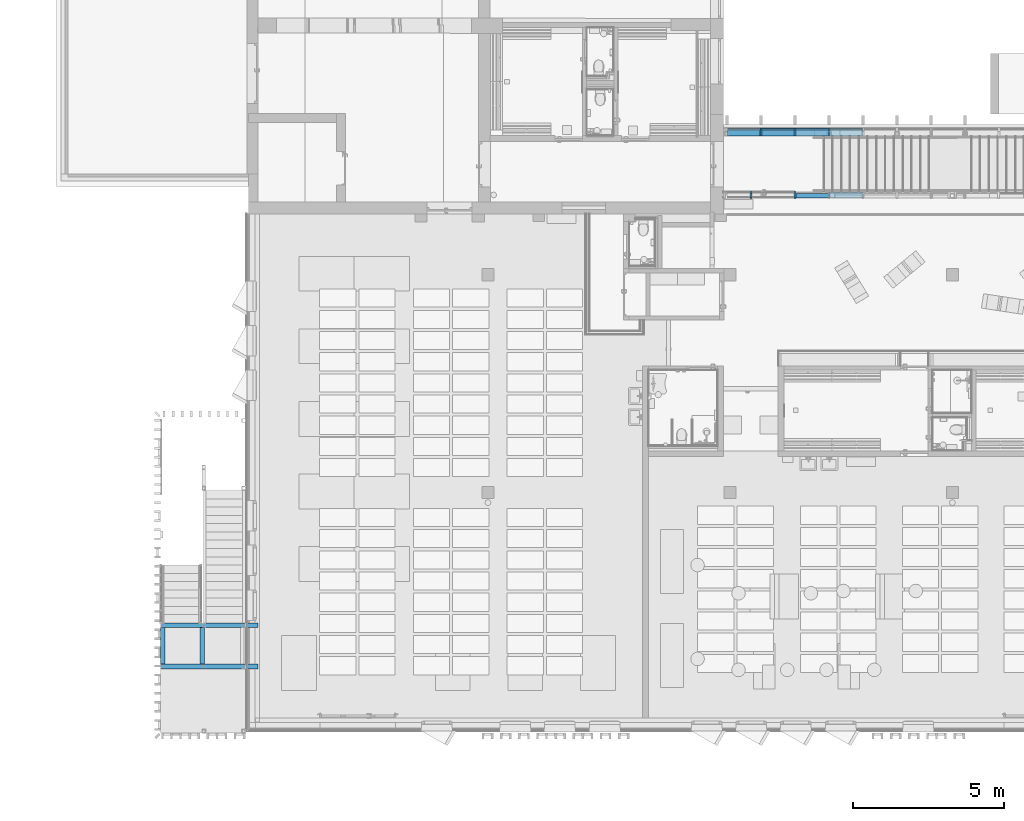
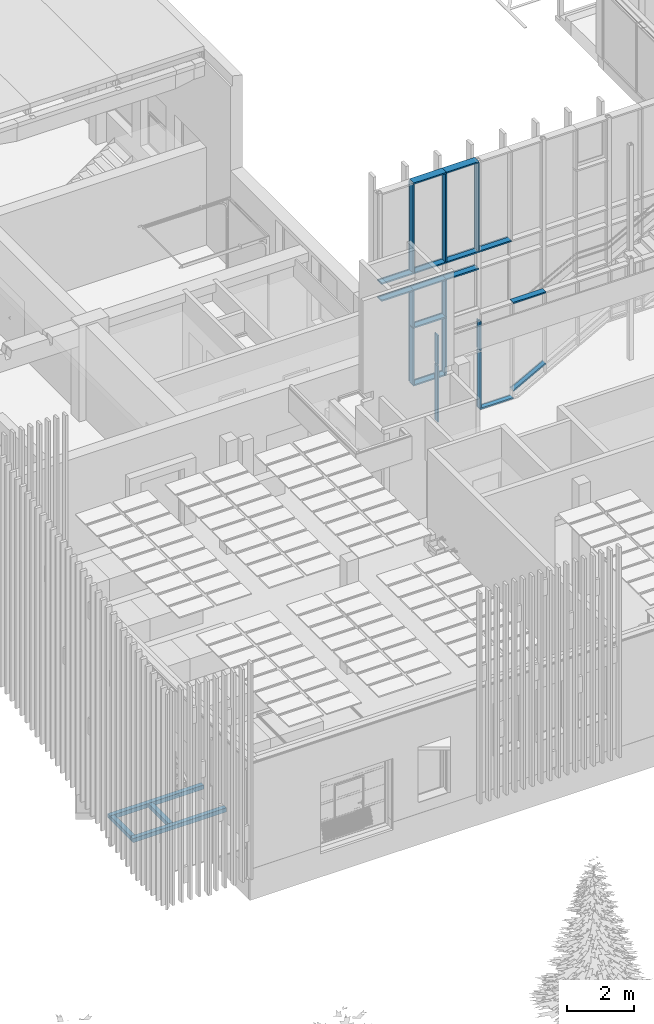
# One storey, part 2 of 301: 25 members, 4 beams, 2 elements without a shape of their own.
"""IFC2X3 building model written with IfcOpenShell, lengths in millimetres."""

from ifc_helpers import new_model, entity, si_unit, converted_unit, derived_unit, money_unit, direction, frame, origin_with_axes, place, context, subcontext, project, spatial, faceted_brep, source, transform, mapped, material, type_object, element, aggregate, save


model = new_model("IFC2X3")

# Units and contexts
model_context = context("Model", 3, precision=0.01, world=origin_with_axes(), true_north=direction((0.0, 1.0)))
body_context = subcontext(model_context, "Body", "Model", "MODEL_VIEW")
ifc_project = project(units=[si_unit("LENGTHUNIT", "METRE", prefix="MILLI"), si_unit("AREAUNIT", "SQUARE_METRE"), si_unit("VOLUMEUNIT", "CUBIC_METRE"), converted_unit("PLANEANGLEUNIT", "DEGREE", entity("IfcPlaneAngleMeasure", 0.0174532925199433), si_unit("PLANEANGLEUNIT", "RADIAN"), dimensions=[0, 0, 0, 0, 0, 0, 0]), money_unit("EUR"), converted_unit("TIMEUNIT", "Year", entity("IfcTimeMeasure", 31557600.0), si_unit("TIMEUNIT", "SECOND"), dimensions=[0, 0, 1, 0, 0, 0, 0]), si_unit("MASSUNIT", "GRAM", prefix="KILO"), si_unit("THERMODYNAMICTEMPERATUREUNIT", "DEGREE_CELSIUS"), si_unit("LUMINOUSINTENSITYUNIT", "LUMEN"), si_unit("ENERGYUNIT", "JOULE", prefix="MEGA"), derived_unit("THERMALCONDUCTANCEUNIT", [(si_unit("POWERUNIT", "WATT"), 1), (si_unit("LENGTHUNIT", "METRE"), -1), (si_unit("THERMODYNAMICTEMPERATUREUNIT", "KELVIN"), -1)]), derived_unit("SPECIFICHEATCAPACITYUNIT", [(si_unit("ENERGYUNIT", "JOULE"), 1), (si_unit("MASSUNIT", "GRAM", prefix="KILO"), -1), (si_unit("THERMODYNAMICTEMPERATUREUNIT", "KELVIN"), -1)]), derived_unit("MASSDENSITYUNIT", [(si_unit("MASSUNIT", "GRAM", prefix="KILO"), 1), (si_unit("VOLUMEUNIT", "CUBIC_METRE"), -1)])], contexts=[model_context])

# Site, building, storey
site_placement = place(None, frame((0.0, 0.0, 8650.0), z_axis=(0.0, 0.0, 1.0), x_axis=(1.0, 0.0, 0.0)))
site = spatial("IfcSite", under=ifc_project, at=site_placement, Name="43301:001:0844", CompositionType="ELEMENT")
building_placement = place(site_placement, origin_with_axes())
building = spatial("IfcBuilding", under=site, at=building_placement, Name="Kuressaare Ametikooli tuulikute mehaanikute õppekorpus", CompositionType="ELEMENT")
storey_placement = place(building_placement, origin_with_axes())
storey = spatial("IfcBuildingStorey", under=building, at=storey_placement, Name="1.korrus", CompositionType="ELEMENT", Elevation=0.0)

# Curtain wall, members
curtain_wall_type = type_object("IfcCurtainWallType", Name="Curtain Wall Type", PredefinedType="NOTDEFINED")
curtain_wall_1_placement = place(storey_placement, frame((116704.6026822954, 28579.57374875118, 35.00000000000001), z_axis=(0.0, 0.0, 1.0), x_axis=(1.0, 0.0, 0.0)))
curtain_wall_1 = element("IfcCurtainWall", 1, at=curtain_wall_1_placement, inside=storey, type_object=curtain_wall_type, Name="KF-1.1")
ifc_material_1 = material(Name="Aluminium")
member_type_1 = type_object("IfcMemberType", Name="Mullion Frame 50 x 260", PredefinedType="NOTDEFINED")
shared_shape_1 = source(origin_with_axes(), body_context, "Body", "Brep", [
    faceted_brep([(5.000000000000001, -20.0, 2074.999959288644), (5.000000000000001, 20.0, 2074.999959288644), (25.0, 19.99999999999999, 2074.999959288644), (25.0, 40.00000000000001, 2074.999959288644), (-25.0, 40.00000000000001, 2074.999959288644), (-25.0, 20.0, 2074.999959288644), (-5.000000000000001, 20.0, 2074.999959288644), (-5.000000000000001, -20.0, 2074.999959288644), (-25.0, -20.0, 2074.999959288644), (-25.0, -220.0, 2074.999959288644), (25.0, -220.0, 2074.999959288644), (25.0, -19.99999999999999, 2074.999959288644), (5.000000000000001, -20.0, 25.00000000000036), (5.000000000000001, 20.0, 25.00000000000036), (25.0, 20.0, 24.99999999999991), (25.0, 40.00000000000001, 24.99999999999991), (-25.0, 40.00000000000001, 24.99999999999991), (-25.0, 19.99999999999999, 24.99999999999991), (-5.000000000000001, 20.0, 25.00000000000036), (-5.000000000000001, -20.0, 25.00000000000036), (-25.0, -19.99999999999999, 24.99999999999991), (-25.0, -220.0, 25.00000000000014), (25.0, -220.0, 25.00000000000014), (25.0, -20.0, 24.99999999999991)], [[[0, 1, 2, 3, 4, 5, 6, 7, 8, 9, 10, 11]], [[0, 12, 13, 1]], [[1, 13, 14, 2]], [[14, 15, 3, 2]], [[4, 3, 15, 16]], [[17, 5, 4, 16]], [[5, 17, 18, 6]], [[7, 6, 18, 19]], [[8, 7, 19, 20]], [[8, 20, 21, 9]], [[10, 9, 21, 22]], [[11, 10, 22, 23]], [[11, 23, 12, 0]], [[13, 12, 23, 22, 21, 20, 19, 18, 17, 16, 15, 14]]]),
])
member_1_placement = place(curtain_wall_1_placement, frame((-11812.5, 0.0, 0.0), z_axis=(0.0, 0.0, 1.0), x_axis=(-1.0, 0.0, 0.0)))
member_1 = element("IfcMember", 2, at=member_1_placement, type_object=member_type_1, material=ifc_material_1, context=body_context, shape_type="MappedRepresentation", body=[
    mapped(shared_shape_1, transform((0.0, 0.0, 0.0), x_axis=(-1.0, 0.0, 0.0), y_axis=(0.0, -1.0, 0.0), z_axis=(0.0, 0.0, 1.0))),
])
member_2_placement = place(curtain_wall_1_placement, frame((-10687.5, 0.0, 0.0), z_axis=(0.0, 0.0, 1.0), x_axis=(-1.0, 0.0, 0.0)))
member_2 = element("IfcMember", 3, at=member_2_placement, type_object=member_type_1, material=ifc_material_1, context=body_context, shape_type="MappedRepresentation", body=[
    mapped(shared_shape_1, transform((0.0, 0.0, 0.0), x_axis=(-1.0, 0.0, 0.0), y_axis=(0.0, -1.0, 0.0), z_axis=(0.0, 0.0, 1.0))),
])
member_type_2 = type_object("IfcMemberType", Name="Boundary Frame 50 x 260", PredefinedType="NOTDEFINED")
shared_shape_2 = source(origin_with_axes(), body_context, "Body", "Brep", [
    faceted_brep([(5.000000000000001, -20.0, 1150.000000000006), (5.000000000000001, 20.0, 1150.000000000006), (25.0, 20.0, 1150.000000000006), (25.0, 40.00000000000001, 1150.000000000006), (-25.0, 40.00000000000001, 1150.000000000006), (-25.0, 19.99999999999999, 1150.000000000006), (-5.000000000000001, 20.0, 1150.000000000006), (-5.000000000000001, -20.0, 1150.000000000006), (-25.0, -19.99999999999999, 1150.000000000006), (-25.0, -220.0, 1150.000000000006), (25.0, -220.0, 1150.000000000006), (25.0, -20.0, 1150.000000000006), (5.000000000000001, -20.0, -25.00000000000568), (5.000000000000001, 20.0, -25.00000000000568), (25.0, 20.0, -25.00000000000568), (25.0, 40.00000000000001, -25.00000000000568), (-25.0, 40.00000000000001, -25.00000000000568), (-25.0, 19.99999999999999, -25.00000000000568), (-5.000000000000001, 20.0, -25.00000000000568), (-5.000000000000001, -20.0, -25.00000000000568), (-25.0, -19.99999999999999, -25.00000000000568), (-25.0, -220.0, -25.00000000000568), (25.0, -220.0, -25.00000000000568), (25.0, -20.0, -25.00000000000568)], [[[0, 1, 2, 3, 4, 5, 6, 7, 8, 9, 10, 11]], [[0, 12, 13, 1]], [[1, 13, 14, 2]], [[14, 15, 3, 2]], [[3, 15, 16, 4]], [[17, 5, 4, 16]], [[5, 17, 18, 6]], [[7, 6, 18, 19]], [[8, 7, 19, 20]], [[8, 20, 21, 9]], [[9, 21, 22, 10]], [[11, 10, 22, 23]], [[11, 23, 12, 0]], [[13, 12, 23, 22, 21, 20, 19, 18, 17, 16, 15, 14]]]),
])
member_3_placement = place(curtain_wall_1_placement, frame((-11812.5, 0.0, 2099.999959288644), z_axis=(1.0, 0.0, 0.0), x_axis=(0.0, 0.0, 1.0)))
member_3 = element("IfcMember", 4, at=member_3_placement, type_object=member_type_2, material=ifc_material_1, context=body_context, shape_type="MappedRepresentation", body=[
    mapped(shared_shape_2, transform((0.0, 0.0, 0.0), x_axis=(-1.0, 0.0, 0.0), y_axis=(0.0, -1.0, 0.0), z_axis=(0.0, 0.0, 1.0))),
])
shared_shape_3 = source(origin_with_axes(), body_context, "Body", "Brep", [
    faceted_brep([(5.000000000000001, -20.0, 1125.0), (5.000000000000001, 20.0, 1125.0), (25.0, 20.0, 1125.0), (25.0, 40.00000000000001, 1125.0), (-25.0, 40.00000000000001, 1125.0), (-25.0, 19.99999999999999, 1125.0), (-5.000000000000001, 20.0, 1125.0), (-5.000000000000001, -20.0, 1125.0), (-25.0, -19.99999999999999, 1125.0), (-25.0, -220.0, 1125.0), (25.0, -220.0, 1125.0), (25.0, -20.0, 1125.0), (5.000000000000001, -20.0, 0.0), (5.000000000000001, 20.0, 0.0), (25.0, 20.0, 0.0), (25.0, 40.00000000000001, 0.0), (-25.0, 40.00000000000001, 0.0), (-25.0, 19.99999999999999, 0.0), (-5.000000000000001, 20.0, 0.0), (-5.000000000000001, -20.0, 0.0), (-25.0, -19.99999999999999, 0.0), (-25.0, -220.0, 0.0), (25.0, -220.0, 0.0), (25.0, -20.0, 0.0)], [[[0, 1, 2, 3, 4, 5, 6, 7, 8, 9, 10, 11]], [[0, 12, 13, 1]], [[1, 13, 14, 2]], [[14, 15, 3, 2]], [[3, 15, 16, 4]], [[17, 5, 4, 16]], [[5, 17, 18, 6]], [[7, 6, 18, 19]], [[8, 7, 19, 20]], [[8, 20, 21, 9]], [[9, 21, 22, 10]], [[11, 10, 22, 23]], [[11, 23, 12, 0]], [[13, 12, 23, 22, 21, 20, 19, 18, 17, 16, 15, 14]]]),
])
member_4_placement = place(curtain_wall_1_placement, frame((-9562.5, 0.0, 4090.0), z_axis=(1.0, 0.0, 0.0), x_axis=(0.0, 0.0, 1.0)))
member_4 = element("IfcMember", 5, at=member_4_placement, type_object=member_type_2, material=ifc_material_1, context=body_context, shape_type="MappedRepresentation", body=[
    mapped(shared_shape_3, transform((0.0, 0.0, 0.0), x_axis=(-1.0, 0.0, 0.0), y_axis=(0.0, -1.0, 0.0), z_axis=(0.0, 0.0, 1.0))),
])
member_5_placement = place(curtain_wall_1_placement, frame((-10687.5, 0.0, 4090.0), z_axis=(1.0, 0.0, 0.0), x_axis=(0.0, 0.0, 1.0)))
member_5 = element("IfcMember", 6, at=member_5_placement, type_object=member_type_2, material=ifc_material_1, context=body_context, shape_type="MappedRepresentation", body=[
    mapped(shared_shape_3, transform((0.0, 0.0, 0.0), x_axis=(-1.0, 0.0, 0.0), y_axis=(0.0, -1.0, 0.0), z_axis=(0.0, 0.0, 1.0))),
])
member_6_placement = place(curtain_wall_1_placement, frame((-11812.5, 0.0, 4090.0), z_axis=(1.0, 0.0, 0.0), x_axis=(0.0, 0.0, 1.0)))
member_6 = element("IfcMember", 7, at=member_6_placement, type_object=member_type_2, material=ifc_material_1, context=body_context, shape_type="MappedRepresentation", body=[
    mapped(shared_shape_3, transform((0.0, 0.0, 0.0), x_axis=(-1.0, 0.0, 0.0), y_axis=(0.0, -1.0, 0.0), z_axis=(0.0, 0.0, 1.0))),
])
member_7_placement = place(curtain_wall_1_placement, frame((-11812.5, 0.0, 3470.000008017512), z_axis=(1.0, 0.0, 0.0), x_axis=(0.0, 0.0, 1.0)))
member_7 = element("IfcMember", 8, at=member_7_placement, type_object=member_type_2, material=ifc_material_1, context=body_context, shape_type="MappedRepresentation", body=[
    mapped(shared_shape_3, transform((0.0, 0.0, 0.0), x_axis=(-1.0, 0.0, 0.0), y_axis=(0.0, -1.0, 0.0), z_axis=(0.0, 0.0, 1.0))),
])
member_8_placement = place(curtain_wall_1_placement, frame((-10687.5, 0.0, 3470.000008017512), z_axis=(1.0, 0.0, 0.0), x_axis=(0.0, 0.0, 1.0)))
member_8 = element("IfcMember", 9, at=member_8_placement, type_object=member_type_2, material=ifc_material_1, context=body_context, shape_type="MappedRepresentation", body=[
    mapped(shared_shape_3, transform((0.0, 0.0, 0.0), x_axis=(-1.0, 0.0, 0.0), y_axis=(0.0, -1.0, 0.0), z_axis=(0.0, 0.0, 1.0))),
])
shared_shape_4 = source(origin_with_axes(), body_context, "Body", "Brep", [
    faceted_brep([(-5.000000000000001, -20.0, 1125.0), (-25.0, -19.99999999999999, 1125.0), (-25.0, -220.0, 1125.0), (25.0, -220.0, 1125.0), (25.0, 40.00000000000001, 1125.0), (-25.0, 40.00000000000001, 1125.0), (-25.0, 19.99999999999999, 1125.0), (-5.000000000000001, 20.0, 1125.0), (-5.000000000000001, -20.0, 0.0), (-25.0, -19.99999999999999, 0.0), (-25.0, -220.0, 0.0), (25.0, -220.0, 0.0), (25.0, 40.00000000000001, 0.0), (-25.0, 40.00000000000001, 0.0), (-25.0, 19.99999999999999, 0.0), (-5.000000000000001, 20.0, 0.0)], [[[0, 1, 2, 3, 4, 5, 6, 7]], [[0, 8, 9, 1]], [[9, 10, 2, 1]], [[10, 11, 3, 2]], [[11, 12, 4, 3]], [[12, 13, 5, 4]], [[6, 5, 13, 14]], [[14, 15, 7, 6]], [[7, 15, 8, 0]], [[8, 15, 14, 13, 12, 11, 10, 9]]]),
])
member_9_placement = place(curtain_wall_1_placement, frame((-11812.5, 0.0, 0.0), z_axis=(1.0, 0.0, 0.0), x_axis=(0.0, 0.0, 1.0)))
member_9 = element("IfcMember", 10, at=member_9_placement, type_object=member_type_2, material=ifc_material_1, context=body_context, shape_type="MappedRepresentation", body=[
    mapped(shared_shape_4, transform((0.0, 0.0, 0.0), x_axis=(-1.0, 0.0, 0.0), y_axis=(0.0, -1.0, 0.0), z_axis=(0.0, 0.0, 1.0))),
])
member_10_placement = place(curtain_wall_1_placement, frame((-10687.5, 0.0, 7359.99994565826), z_axis=(-1.0, 0.0, 0.0), x_axis=(0.0, 0.0, -1.0)))
member_10 = element("IfcMember", 11, at=member_10_placement, type_object=member_type_2, material=ifc_material_1, context=body_context, shape_type="MappedRepresentation", body=[
    mapped(shared_shape_4, transform((0.0, 0.0, 0.0), x_axis=(-1.0, 0.0, 0.0), y_axis=(0.0, -1.0, 0.0), z_axis=(0.0, 0.0, 1.0))),
])
member_11_placement = place(curtain_wall_1_placement, frame((-9562.5, 0.0, 7359.99994565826), z_axis=(-1.0, 0.0, 0.0), x_axis=(0.0, 0.0, -1.0)))
member_11 = element("IfcMember", 12, at=member_11_placement, type_object=member_type_2, material=ifc_material_1, context=body_context, shape_type="MappedRepresentation", body=[
    mapped(shared_shape_4, transform((0.0, 0.0, 0.0), x_axis=(-1.0, 0.0, 0.0), y_axis=(0.0, -1.0, 0.0), z_axis=(0.0, 0.0, 1.0))),
])
shared_shape_5 = source(origin_with_axes(), body_context, "Body", "Brep", [
    faceted_brep([(5.000000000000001, -20.0, 1125.0), (5.000000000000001, 20.0, 1125.0), (25.0, 20.0, 1125.0), (25.0, 40.00000000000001, 1125.0), (-25.0, 40.00000000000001, 1125.0), (-25.0, 19.99999999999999, 1125.0), (-5.000000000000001, 20.0, 1125.0), (-5.000000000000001, -20.0, 1125.0), (-25.0, -19.99999999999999, 1125.0), (-25.0, -220.0, 1125.0), (25.0, -220.0, 1125.0), (25.0, -20.0, 1125.0), (5.000000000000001, -20.0, 5.000000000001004), (5.000000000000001, 20.0, 5.000000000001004), (25.00000000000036, 20.0, 25.00000000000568), (25.00000000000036, 40.00000000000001, 25.00000000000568), (-25.00000000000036, 40.00000000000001, 25.00000000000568), (0.0, 40.00000000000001, 0.0), (-25.00000000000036, 19.99999999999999, 25.00000000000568), (-5.000000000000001, 20.0, 5.000000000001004), (-5.000000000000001, -20.0, 5.000000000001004), (-25.00000000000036, -19.99999999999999, 25.00000000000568), (-25.00000000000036, -220.0, 25.00000000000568), (25.00000000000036, -220.0, 25.00000000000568), (0.0, -220.0, 0.0), (25.00000000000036, -20.0, 25.00000000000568)], [[[0, 1, 2, 3, 4, 5, 6, 7, 8, 9, 10, 11]], [[0, 12, 13, 1]], [[1, 13, 14, 2]], [[14, 15, 3, 2]], [[16, 4, 3, 15, 17]], [[18, 5, 4, 16]], [[5, 18, 19, 6]], [[7, 6, 19, 20]], [[8, 7, 20, 21]], [[8, 21, 22, 9]], [[23, 10, 9, 22, 24]], [[11, 10, 23, 25]], [[11, 25, 12, 0]], [[13, 12, 25, 23, 24, 17, 15, 14]], [[16, 17, 24, 22, 21, 20, 19, 18]]]),
])
member_12_placement = place(curtain_wall_1_placement, frame((-12937.5, 0.0, 4090.0), z_axis=(1.0, 0.0, 0.0), x_axis=(0.0, 0.0, 1.0)))
member_12 = element("IfcMember", 13, at=member_12_placement, type_object=member_type_2, material=ifc_material_1, context=body_context, shape_type="MappedRepresentation", body=[
    mapped(shared_shape_5, transform((0.0, 0.0, 0.0), x_axis=(-1.0, 0.0, 0.0), y_axis=(0.0, -1.0, 0.0), z_axis=(0.0, 0.0, 1.0))),
])
member_13_placement = place(curtain_wall_1_placement, frame((-12937.5, 0.0, 3470.000008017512), z_axis=(1.0, 0.0, 0.0), x_axis=(0.0, 0.0, 1.0)))
member_13 = element("IfcMember", 14, at=member_13_placement, type_object=member_type_2, material=ifc_material_1, context=body_context, shape_type="MappedRepresentation", body=[
    mapped(shared_shape_5, transform((0.0, 0.0, 0.0), x_axis=(-1.0, 0.0, 0.0), y_axis=(0.0, -1.0, 0.0), z_axis=(0.0, 0.0, 1.0))),
])
shared_shape_6 = source(origin_with_axes(), body_context, "Body", "Brep", [
    faceted_brep([(5.000000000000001, -20.0, 3244.99994565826), (5.000000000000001, 20.0, 3244.99994565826), (25.0, 19.99999999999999, 3244.99994565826), (25.0, 40.00000000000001, 3244.99994565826), (-25.0, 40.00000000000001, 3244.99994565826), (-25.0, 20.0, 3244.99994565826), (-5.000000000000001, 20.0, 3244.99994565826), (-5.000000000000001, -20.0, 3244.99994565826), (-25.0, -20.0, 3244.99994565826), (-25.0, -220.0, 3244.99994565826), (25.0, -220.0, 3244.99994565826), (25.0, -19.99999999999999, 3244.99994565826), (5.000000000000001, -20.0, 25.00000000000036), (5.000000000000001, 20.0, 25.00000000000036), (25.0, 20.0, 25.00000000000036), (25.0, 40.00000000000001, 25.00000000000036), (-25.0, 40.00000000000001, 25.00000000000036), (-25.0, 19.99999999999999, 25.00000000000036), (-5.000000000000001, 20.0, 25.00000000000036), (-5.000000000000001, -20.0, 25.00000000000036), (-25.0, -19.99999999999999, 25.00000000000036), (-25.0, -220.0, 25.00000000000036), (25.0, -220.0, 25.00000000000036), (25.0, -20.0, 25.00000000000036)], [[[0, 1, 2, 3, 4, 5, 6, 7, 8, 9, 10, 11]], [[0, 12, 13, 1]], [[1, 13, 14, 2]], [[14, 15, 3, 2]], [[4, 3, 15, 16]], [[17, 5, 4, 16]], [[5, 17, 18, 6]], [[7, 6, 18, 19]], [[8, 7, 19, 20]], [[8, 20, 21, 9]], [[10, 9, 21, 22]], [[11, 10, 22, 23]], [[11, 23, 12, 0]], [[13, 12, 23, 22, 21, 20, 19, 18, 17, 16, 15, 14]]]),
])
member_14_placement = place(curtain_wall_1_placement, frame((-11812.5, 0.0, 4090.0), z_axis=(0.0, 0.0, 1.0), x_axis=(-1.0, 0.0, 0.0)))
member_14 = element("IfcMember", 15, at=member_14_placement, type_object=member_type_1, material=ifc_material_1, context=body_context, shape_type="MappedRepresentation", body=[
    mapped(shared_shape_6, transform((0.0, 0.0, 0.0), x_axis=(-1.0, 0.0, 0.0), y_axis=(0.0, -1.0, 0.0), z_axis=(0.0, 0.0, 1.0))),
])
member_15_placement = place(curtain_wall_1_placement, frame((-10687.5, 0.0, 4090.0), z_axis=(0.0, 0.0, 1.0), x_axis=(-1.0, 0.0, 0.0)))
member_15 = element("IfcMember", 16, at=member_15_placement, type_object=member_type_1, material=ifc_material_1, context=body_context, shape_type="MappedRepresentation", body=[
    mapped(shared_shape_6, transform((0.0, 0.0, 0.0), x_axis=(-1.0, 0.0, 0.0), y_axis=(0.0, -1.0, 0.0), z_axis=(0.0, 0.0, 1.0))),
])
member_16_placement = place(curtain_wall_1_placement, frame((-9562.5, 0.0, 4090.0), z_axis=(0.0, 0.0, 1.0), x_axis=(-1.0, 0.0, 0.0)))
member_16 = element("IfcMember", 17, at=member_16_placement, type_object=member_type_1, material=ifc_material_1, context=body_context, shape_type="MappedRepresentation", body=[
    mapped(shared_shape_6, transform((0.0, 0.0, 0.0), x_axis=(-1.0, 0.0, 0.0), y_axis=(0.0, -1.0, 0.0), z_axis=(0.0, 0.0, 1.0))),
])
shared_shape_7 = source(origin_with_axes(), body_context, "Body", "Brep", [
    faceted_brep([(5.000000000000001, -20.0, 1345.000048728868), (5.000000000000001, 20.0, 1345.000048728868), (25.0, 19.99999999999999, 1345.000048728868), (25.0, 40.00000000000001, 1345.000048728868), (-25.0, 40.00000000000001, 1345.000048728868), (-25.0, 20.0, 1345.000048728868), (-5.000000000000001, 20.0, 1345.000048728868), (-5.000000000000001, -20.0, 1345.000048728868), (-25.0, -20.0, 1345.000048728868), (-25.0, -220.0, 1345.000048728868), (25.0, -220.0, 1345.000048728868), (25.0, -19.99999999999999, 1345.000048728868), (5.000000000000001, -20.0, 24.99999999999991), (5.000000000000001, 20.0, 24.99999999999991), (25.0, 20.0, 24.99999999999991), (25.0, 40.00000000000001, 24.99999999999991), (-25.0, 40.00000000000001, 24.99999999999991), (-25.0, 19.99999999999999, 24.99999999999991), (-5.000000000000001, 20.0, 24.99999999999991), (-5.000000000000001, -20.0, 24.99999999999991), (-25.0, -19.99999999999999, 24.99999999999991), (-25.0, -220.0, 24.99999999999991), (25.0, -220.0, 24.99999999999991), (25.0, -20.0, 24.99999999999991)], [[[0, 1, 2, 3, 4, 5, 6, 7, 8, 9, 10, 11]], [[0, 12, 13, 1]], [[1, 13, 14, 2]], [[14, 15, 3, 2]], [[4, 3, 15, 16]], [[17, 5, 4, 16]], [[5, 17, 18, 6]], [[7, 6, 18, 19]], [[8, 7, 19, 20]], [[8, 20, 21, 9]], [[10, 9, 21, 22]], [[11, 10, 22, 23]], [[11, 23, 12, 0]], [[13, 12, 23, 22, 21, 20, 19, 18, 17, 16, 15, 14]]]),
])
member_17_placement = place(curtain_wall_1_placement, frame((-11812.5, 0.0, 2099.999959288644), z_axis=(0.0, 0.0, 1.0), x_axis=(-1.0, 0.0, 0.0)))
member_17 = element("IfcMember", 18, at=member_17_placement, type_object=member_type_1, material=ifc_material_1, context=body_context, shape_type="MappedRepresentation", body=[
    mapped(shared_shape_7, transform((0.0, 0.0, 0.0), x_axis=(-1.0, 0.0, 0.0), y_axis=(0.0, -1.0, 0.0), z_axis=(0.0, 0.0, 1.0))),
])
member_18_placement = place(curtain_wall_1_placement, frame((-10687.5, 0.0, 2099.999959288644), z_axis=(0.0, 0.0, 1.0), x_axis=(-1.0, 0.0, 0.0)))
member_18 = element("IfcMember", 19, at=member_18_placement, type_object=member_type_1, material=ifc_material_1, context=body_context, shape_type="MappedRepresentation", body=[
    mapped(shared_shape_7, transform((0.0, 0.0, 0.0), x_axis=(-1.0, 0.0, 0.0), y_axis=(0.0, -1.0, 0.0), z_axis=(0.0, 0.0, 1.0))),
])
aggregate(curtain_wall_1, [member_3, member_1, member_2, member_9, member_4, member_5, member_6, member_12, member_13, member_17, member_7, member_18, member_8, member_14, member_10, member_15, member_11, member_16])

curtain_wall_2_placement = place(storey_placement, frame((105155.4360221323, 26479.57374875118, 34.99996632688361), z_axis=(0.0, 0.0, 1.0), x_axis=(1.0, 0.0, 0.0)))
curtain_wall_2 = element("IfcCurtainWall", 20, at=curtain_wall_2_placement, inside=storey, type_object=curtain_wall_type, Name="SKF-1.1,EI60")
member_type_3 = type_object("IfcMemberType", Name="Boundary Frame 50 x 200", PredefinedType="NOTDEFINED")
shared_shape_8 = source(origin_with_axes(), body_context, "Body", "Brep", [
    faceted_brep([(-5.000000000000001, -20.0, 1125.0), (-25.0, -19.99999999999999, 1125.0), (-25.0, -170.0, 1125.0), (25.0, -170.0, 1125.0), (25.0, 30.0, 1125.0), (-25.0, 30.0, 1125.0), (-25.0, 19.99999999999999, 1125.0), (-5.000000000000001, 20.0, 1125.0), (-5.000000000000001, -20.0, -25.00000000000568), (-25.0, -19.99999999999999, -25.00000000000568), (-25.0, -170.0, -25.00000000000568), (25.0, -170.0, -25.00000000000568), (25.0, 30.0, -25.00000000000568), (-25.0, 30.0, -25.00000000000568), (-25.0, 19.99999999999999, -25.00000000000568), (-5.000000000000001, 20.0, -25.00000000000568)], [[[0, 1, 2, 3, 4, 5, 6, 7]], [[0, 8, 9, 1]], [[9, 10, 2, 1]], [[10, 11, 3, 2]], [[11, 12, 4, 3]], [[12, 13, 5, 4]], [[6, 5, 13, 14]], [[14, 15, 7, 6]], [[7, 15, 8, 0]], [[8, 15, 14, 13, 12, 11, 10, 9]]]),
])
member_19_placement = place(curtain_wall_2_placement, frame((861.6666601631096, 0.0, 0.0), z_axis=(1.0, 0.0, 0.0), x_axis=(0.0, 0.0, 1.0)))
member_19 = element("IfcMember", 21, at=member_19_placement, type_object=member_type_3, material=ifc_material_1, context=body_context, shape_type="MappedRepresentation", body=[
    mapped(shared_shape_8, transform((0.0, 0.0, 0.0), x_axis=(-1.0, 0.0, 0.0), y_axis=(0.0, -1.0, 0.0), z_axis=(0.0, 0.0, 1.0))),
])
shared_shape_9 = source(origin_with_axes(), body_context, "Body", "Brep", [
    faceted_brep([(-5.000000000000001, -20.0, 1125.0), (-25.0, -19.99999999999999, 1125.0), (-25.0, -170.0, 1125.0), (25.0, -170.0, 1125.0), (25.0, 30.0, 1125.0), (-25.0, 30.0, 1125.0), (-25.0, 19.99999999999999, 1125.0), (-5.000000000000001, 20.0, 1125.0), (-5.000000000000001, -20.0, 0.0), (-25.0, -19.99999999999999, 0.0), (-25.0, -170.0, 0.0), (25.0, -170.0, 0.0), (25.0, 30.0, 0.0), (-25.0, 30.0, 0.0), (-25.0, 19.99999999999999, 0.0), (-5.000000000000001, 20.0, 0.0)], [[[0, 1, 2, 3, 4, 5, 6, 7]], [[0, 8, 9, 1]], [[9, 10, 2, 1]], [[10, 11, 3, 2]], [[11, 12, 4, 3]], [[12, 13, 5, 4]], [[6, 5, 13, 14]], [[14, 15, 7, 6]], [[7, 15, 8, 0]], [[8, 15, 14, 13, 12, 11, 10, 9]]]),
])
member_20_placement = place(curtain_wall_2_placement, frame((3111.66666016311, 0.0, 3459.999957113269), z_axis=(-1.0, 0.0, 0.0), x_axis=(0.0, 0.0, -1.0)))
member_20 = element("IfcMember", 22, at=member_20_placement, type_object=member_type_3, material=ifc_material_1, context=body_context, shape_type="MappedRepresentation", body=[
    mapped(shared_shape_9, transform((0.0, 0.0, 0.0), x_axis=(-1.0, 0.0, 0.0), y_axis=(0.0, -1.0, 0.0), z_axis=(0.0, 0.0, 1.0))),
])
member_type_4 = type_object("IfcMemberType", Name="Mullion Frame 50 x 200", PredefinedType="NOTDEFINED")
shared_shape_10 = source(origin_with_axes(), body_context, "Body", "Brep", [
    faceted_brep([(5.000000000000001, -20.0, 1084.620637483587), (5.000000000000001, 20.0, 1084.620637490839), (25.0, 19.99999999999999, 1084.620637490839), (25.0, 30.0, 1084.620637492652), (-25.0, 30.0, 1084.620637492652), (-25.0, 20.0, 1084.620637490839), (-5.000000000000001, 20.0, 1084.620637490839), (-5.000000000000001, -20.0, 1084.620637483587), (-25.0, -20.0, 1084.620637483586), (-25.0, -170.0, 1084.62063745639), (25.0, -170.0, 1084.62063745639), (25.0, -19.99999999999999, 1084.620637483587), (5.000000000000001, -20.0, 25.00000000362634), (5.000000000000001, 20.0, 24.99999999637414), (25.0, 20.0, 24.99999999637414), (25.0, 30.0, 24.99999999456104), (-25.0, 30.0, 24.99999999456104), (-25.0, 19.99999999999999, 24.99999999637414), (-5.000000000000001, 20.0, 24.99999999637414), (-5.000000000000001, -20.0, 25.00000000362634), (-25.0, -19.99999999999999, 25.00000000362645), (-25.0, -170.0, 25.00000003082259), (25.0, -170.0, 25.00000003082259), (25.0, -20.0, 25.00000000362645)], [[[0, 1, 2, 3, 4, 5, 6, 7, 8, 9, 10, 11]], [[0, 12, 13, 1]], [[1, 13, 14, 2]], [[14, 15, 3, 2]], [[4, 3, 15, 16]], [[17, 5, 4, 16]], [[5, 17, 18, 6]], [[7, 6, 18, 19]], [[8, 7, 19, 20]], [[8, 20, 21, 9]], [[10, 9, 21, 22]], [[11, 10, 22, 23]], [[11, 23, 12, 0]], [[13, 12, 23, 22, 21, 20, 19, 18, 17, 16, 15, 14]]]),
])
member_21_placement = place(curtain_wall_2_placement, frame((861.6666601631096, 0.0, 2100.379309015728), z_axis=(0.0, 0.0, 1.0), x_axis=(-1.0, 0.0, 0.0)))
member_21 = element("IfcMember", 23, at=member_21_placement, type_object=member_type_4, material=ifc_material_1, context=body_context, shape_type="MappedRepresentation", body=[
    mapped(shared_shape_10, transform((0.0, 0.0, 0.0), x_axis=(-1.0, 0.0, 0.0), y_axis=(0.0, -1.0, 0.0), z_axis=(0.0, 0.0, 1.0))),
])
member_22_placement = place(curtain_wall_2_placement, frame((-598.3333203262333, 0.0, 2100.379309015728), z_axis=(1.813079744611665e-10, 0.0, 1.0), x_axis=(-1.0, 0.0, 1.813079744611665e-10)))
member_22 = element("IfcMember", 24, at=member_22_placement, type_object=member_type_4, material=ifc_material_1, context=body_context, shape_type="MappedRepresentation", body=[
    mapped(shared_shape_10, transform((0.0, 0.0, 0.0), x_axis=(-1.0, 0.0, 1.813079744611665e-10), y_axis=(0.0, -1.0, 0.0), z_axis=(1.813079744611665e-10, 0.0, 1.0))),
])
shared_shape_11 = source(origin_with_axes(), body_context, "Body", "Brep", [
    faceted_brep([(5.000000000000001, -20.0, 1280.565356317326), (5.000000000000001, 20.0, 1280.565356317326), (25.0, 20.0, 1280.565356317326), (25.0, 30.0, 1280.565356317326), (-25.0, 30.0, 1280.565356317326), (-25.0, 19.99999999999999, 1280.565356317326), (-5.000000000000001, 20.0, 1280.565356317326), (-5.000000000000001, -20.0, 1280.565356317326), (-25.0, -19.99999999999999, 1280.565356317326), (-25.0, -170.0, 1280.565356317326), (25.0, -170.0, 1280.565356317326), (25.0, -20.0, 1280.565356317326), (5.000000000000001, -20.0, 0.0), (5.000000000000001, 20.0, 0.0), (25.0, 20.0, 0.0), (25.0, 30.0, 0.0), (-25.0, 30.0, 0.0), (-25.0, 19.99999999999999, 0.0), (-5.000000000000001, 20.0, 0.0), (-5.000000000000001, -20.0, 0.0), (-25.0, -19.99999999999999, 0.0), (-25.0, -170.0, 0.0), (25.0, -170.0, 0.0), (25.0, -20.0, 0.0)], [[[0, 1, 2, 3, 4, 5, 6, 7, 8, 9, 10, 11]], [[0, 12, 13, 1]], [[1, 13, 14, 2]], [[14, 15, 3, 2]], [[3, 15, 16, 4]], [[17, 5, 4, 16]], [[5, 17, 18, 6]], [[7, 6, 18, 19]], [[8, 7, 19, 20]], [[8, 20, 21, 9]], [[9, 21, 22, 10]], [[11, 10, 22, 23]], [[11, 23, 12, 0]], [[13, 12, 23, 22, 21, 20, 19, 18, 17, 16, 15, 14]]]),
])
member_23_placement = place(curtain_wall_2_placement, frame((1986.66666016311, 0.0, 259.902665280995), z_axis=(0.8785182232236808, 0.0, 0.4777088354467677), x_axis=(-0.4777088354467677, 0.0, 0.8785182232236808)))
member_23 = element("IfcMember", 25, at=member_23_placement, type_object=member_type_3, material=ifc_material_1, context=body_context, shape_type="MappedRepresentation", body=[
    mapped(shared_shape_11, transform((0.0, 0.0, 0.0), x_axis=(-1.0, 0.0, 0.0), y_axis=(0.0, -1.0, 0.0), z_axis=(0.0, 0.0, 1.0))),
])
shared_shape_12 = source(origin_with_axes(), body_context, "Body", "Brep", [
    faceted_brep([(5.000000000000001, -20.0, 2075.379309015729), (5.000000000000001, 20.0, 2075.379309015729), (25.0, 19.99999999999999, 2075.379309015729), (25.0, 30.0, 2075.379309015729), (-25.0, 30.0, 2075.379309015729), (-25.0, 20.0, 2075.379309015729), (-5.000000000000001, 20.0, 2075.379309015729), (-5.000000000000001, -20.0, 2075.379309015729), (-25.0, -20.0, 2075.379309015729), (-25.0, -170.0, 2075.379309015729), (25.0, -170.0, 2075.379309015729), (25.0, -19.99999999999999, 2075.379309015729), (5.000000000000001, -20.0, 24.99999999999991), (5.000000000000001, 20.0, 24.99999999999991), (25.0, 20.0, 25.00000000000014), (25.0, 30.0, 25.00000000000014), (-25.0, 30.0, 25.00000000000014), (-25.0, 19.99999999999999, 25.00000000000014), (-5.000000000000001, 20.0, 24.99999999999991), (-5.000000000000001, -20.0, 24.99999999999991), (-25.0, -19.99999999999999, 25.00000000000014), (-25.0, -170.0, 25.00000000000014), (25.0, -170.0, 25.00000000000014), (25.0, -20.0, 25.00000000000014)], [[[0, 1, 2, 3, 4, 5, 6, 7, 8, 9, 10, 11]], [[0, 12, 13, 1]], [[1, 13, 14, 2]], [[14, 15, 3, 2]], [[4, 3, 15, 16]], [[17, 5, 4, 16]], [[5, 17, 18, 6]], [[7, 6, 18, 19]], [[8, 7, 19, 20]], [[8, 20, 21, 9]], [[10, 9, 21, 22]], [[11, 10, 22, 23]], [[11, 23, 12, 0]], [[13, 12, 23, 22, 21, 20, 19, 18, 17, 16, 15, 14]]]),
])
member_24_placement = place(curtain_wall_2_placement, frame((-598.3333203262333, 0.0, 0.0), z_axis=(0.0, 0.0, 1.0), x_axis=(-1.0, 0.0, 0.0)))
member_24 = element("IfcMember", 26, at=member_24_placement, type_object=member_type_4, material=ifc_material_1, context=body_context, shape_type="MappedRepresentation", body=[
    mapped(shared_shape_12, transform((0.0, 0.0, 0.0), x_axis=(-1.0, 0.0, 0.0), y_axis=(0.0, -1.0, 0.0), z_axis=(0.0, 0.0, 1.0))),
])
member_25_placement = place(curtain_wall_2_placement, frame((861.6666601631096, 0.0, 0.0), z_axis=(0.0, 0.0, 1.0), x_axis=(-1.0, 0.0, 0.0)))
member_25 = element("IfcMember", 27, at=member_25_placement, type_object=member_type_4, material=ifc_material_1, context=body_context, shape_type="MappedRepresentation", body=[
    mapped(shared_shape_12, transform((0.0, 0.0, 0.0), x_axis=(-1.0, 0.0, 0.0), y_axis=(0.0, -1.0, 0.0), z_axis=(0.0, 0.0, 1.0))),
])
aggregate(curtain_wall_2, [member_20, member_19, member_21, member_23, member_24, member_25, member_22])

# Beams
ifc_material_2 = material(Name="STEEL/S355")
beam_type = type_object("IfcBeamType", Name="IFC Footing Extruded", PredefinedType="NOTDEFINED")
shared_shape_13 = source(origin_with_axes(), body_context, "Body", "Brep", [
    faceted_brep([(1215.00000000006, 75.0, -75.0), (1215.00000000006, -75.0, -75.0), (0.0, -75.00000000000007, -74.99999999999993), (0.0, 74.99999999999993, -74.99999999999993), (1215.00000000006, 75.0, 75.0), (1215.00000000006, -75.0, 75.0), (1215.00000000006, 68.99999999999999, -68.99999999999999), (1215.00000000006, -68.99999999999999, -68.99999999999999), (1215.00000000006, -68.99999999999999, 68.99999999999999), (1215.00000000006, 68.99999999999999, 68.99999999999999), (0.0, -75.00000000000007, 75.00000000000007), (0.0, 74.99999999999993, 75.00000000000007), (0.0, 68.99999999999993, -68.99999999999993), (0.0, 68.99999999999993, 69.00000000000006), (0.0, -69.00000000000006, 69.00000000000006), (0.0, -69.00000000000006, -68.99999999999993)], [[[0, 1, 2, 3]], [[0, 4, 5, 1], [6, 7, 8, 9]], [[1, 5, 10, 2]], [[3, 2, 10, 11], [12, 13, 14, 15]], [[4, 0, 3, 11]], [[5, 4, 11, 10]], [[7, 6, 12, 15]], [[8, 7, 15, 14]], [[9, 8, 14, 13]], [[6, 9, 13, 12]]]),
])
for number, where, z_axis, x_axis in (
    (28, (85121.22662386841, 12113.83806945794, 1068.673538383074), (0.0, 0.0, 1.0), (0.0, -1.0, 0.0)),
    (29, (86429.72662386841, 12113.83806945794, 1068.673538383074), (0.0, 0.0, 1.0), (0.0, -1.0, 0.0)),
):
    element("IfcBeam", number, at=place(storey_placement, frame(where, z_axis=z_axis, x_axis=x_axis)), inside=storey, type_object=beam_type, material=ifc_material_2, Name="RAAM", context=body_context, shape_type="MappedRepresentation", body=[
        mapped(shared_shape_13, transform((0.0, 0.0, 0.0))),
    ])
shared_shape_14 = source(origin_with_axes(), body_context, "Body", "Brep", [
    faceted_brep([(3225.99999999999, 75.0, -75.0), (3225.99999999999, -75.0, -75.0), (0.0, -75.00000000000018, -74.9999999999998), (0.0, 74.9999999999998, -74.9999999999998), (3225.99999999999, 75.0, 75.0), (3225.99999999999, -75.0, 75.0), (3225.99999999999, 68.99999999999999, -68.99999999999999), (3225.99999999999, -68.99999999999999, -68.99999999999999), (3225.99999999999, -68.99999999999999, 68.99999999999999), (3225.99999999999, 68.99999999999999, 68.99999999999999), (0.0, -75.00000000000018, 75.00000000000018), (0.0, 74.9999999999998, 75.00000000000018), (0.0, 68.9999999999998, -68.9999999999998), (0.0, 68.9999999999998, 69.00000000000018), (0.0, -69.00000000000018, 69.00000000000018), (0.0, -69.00000000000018, -68.9999999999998)], [[[0, 1, 2, 3]], [[0, 4, 5, 1], [6, 7, 8, 9]], [[1, 5, 10, 2]], [[3, 2, 10, 11], [12, 13, 14, 15]], [[4, 0, 3, 11]], [[5, 4, 11, 10]], [[7, 6, 12, 15]], [[8, 7, 15, 14]], [[9, 8, 14, 13]], [[6, 9, 13, 12]]]),
])
for number, where, z_axis, x_axis in (
    (30, (88272.22662386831, 12188.83806945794, 1068.673538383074), (0.0, 0.0, 1.0), (-1.0, 0.0, 0.0)),
    (31, (88272.22662386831, 10823.83806945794, 1068.673538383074), (0.0, 0.0, 1.0), (-1.0, 0.0, 0.0)),
):
    element("IfcBeam", number, at=place(storey_placement, frame(where, z_axis=z_axis, x_axis=x_axis)), inside=storey, type_object=beam_type, material=ifc_material_2, Name="RAAM", context=body_context, shape_type="MappedRepresentation", body=[
        mapped(shared_shape_14, transform((0.0, 0.0, 0.0))),
    ])

save(model, "model.ifc")
